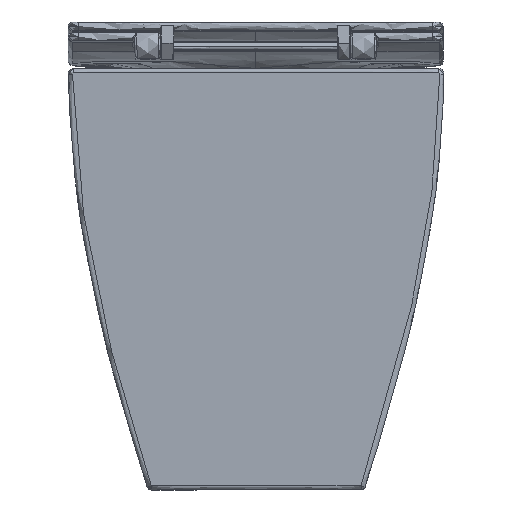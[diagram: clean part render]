
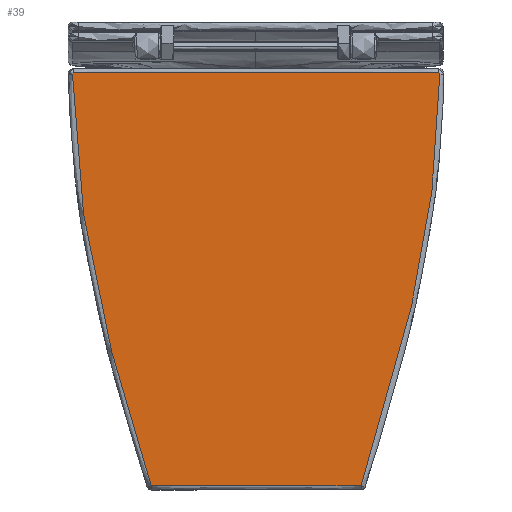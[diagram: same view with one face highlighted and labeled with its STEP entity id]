
A CAD part, front view. The second image highlights one B-rep face of the part: STEP entity #39.
In plain terms, the highlighted planar face has unit normal (0, 1, 0).
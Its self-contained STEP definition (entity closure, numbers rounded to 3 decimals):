
#39=ADVANCED_FACE('',(#627),#7990,.T.);
#627=FACE_OUTER_BOUND('',#1193,.T.);
#1193=EDGE_LOOP('',(#1828,#1829,#1830,#1831,#1832,#1833,#1834,#1835));
#1828=ORIENTED_EDGE('',*,*,#4488,.T.);
#1829=ORIENTED_EDGE('',*,*,#4490,.F.);
#1830=ORIENTED_EDGE('',*,*,#4509,.T.);
#1831=ORIENTED_EDGE('',*,*,#4507,.F.);
#1832=ORIENTED_EDGE('',*,*,#4499,.T.);
#1833=ORIENTED_EDGE('',*,*,#4502,.T.);
#1834=ORIENTED_EDGE('',*,*,#4503,.T.);
#1835=ORIENTED_EDGE('',*,*,#4489,.F.);
#4488=EDGE_CURVE('',#6743,#6744,#8105,.T.);
#4489=EDGE_CURVE('',#6743,#6746,#8106,.T.);
#4490=EDGE_CURVE('',#6748,#6744,#8107,.T.);
#4499=EDGE_CURVE('',#6745,#6758,#5886,.T.);
#4502=EDGE_CURVE('',#6758,#6757,#5889,.T.);
#4503=EDGE_CURVE('',#6757,#6746,#5890,.T.);
#4507=EDGE_CURVE('',#6745,#6747,#5893,.T.);
#4509=EDGE_CURVE('',#6748,#6747,#5895,.T.);
#5886=(
BOUNDED_CURVE()
B_SPLINE_CURVE(3,(#10343,#10344,#10345,#10346),.UNSPECIFIED.,.F.,.F.)
B_SPLINE_CURVE_WITH_KNOTS((4,4),(0.,0.038),
 .UNSPECIFIED.)
CURVE()
GEOMETRIC_REPRESENTATION_ITEM()
RATIONAL_B_SPLINE_CURVE((1.,1.,1.,1.))
REPRESENTATION_ITEM('')
);
#5889=(
BOUNDED_CURVE()
B_SPLINE_CURVE(3,(#10355,#10356,#10357,#10358,#10359,#10360,#10361,#10362),
 .UNSPECIFIED.,.F.,.F.)
B_SPLINE_CURVE_WITH_KNOTS((4,1,3,4),(0.038,0.899,
1.8,1.812),.UNSPECIFIED.)
CURVE()
GEOMETRIC_REPRESENTATION_ITEM()
RATIONAL_B_SPLINE_CURVE((1.,1.,1.,1.,1.,1.,1.,1.))
REPRESENTATION_ITEM('')
);
#5890=(
BOUNDED_CURVE()
B_SPLINE_CURVE(3,(#10363,#10364,#10365,#10366),.UNSPECIFIED.,.F.,.F.)
B_SPLINE_CURVE_WITH_KNOTS((4,4),(1.812,2.146),
 .UNSPECIFIED.)
CURVE()
GEOMETRIC_REPRESENTATION_ITEM()
RATIONAL_B_SPLINE_CURVE((1.,1.,1.,1.))
REPRESENTATION_ITEM('')
);
#5893=(
BOUNDED_CURVE()
B_SPLINE_CURVE(1,(#10383,#10384),.UNSPECIFIED.,.F.,.F.)
B_SPLINE_CURVE_WITH_KNOTS((2,2),(0.,355.508),
 .UNSPECIFIED.)
CURVE()
GEOMETRIC_REPRESENTATION_ITEM()
RATIONAL_B_SPLINE_CURVE((1.,1.))
REPRESENTATION_ITEM('')
);
#5895=(
BOUNDED_CURVE()
B_SPLINE_CURVE(3,(#10387,#10388,#10389,#10390,#10391,#10392,#10393,#10394,
#10395,#10396),.UNSPECIFIED.,.F.,.F.)
B_SPLINE_CURVE_WITH_KNOTS((4,3,3,4),(-0.292,0.898,
1.415,1.789),.UNSPECIFIED.)
CURVE()
GEOMETRIC_REPRESENTATION_ITEM()
RATIONAL_B_SPLINE_CURVE((1.,1.,1.,1.,1.,1.,1.,
1.,1.,1.))
REPRESENTATION_ITEM('')
);
#6743=VERTEX_POINT('',#9885);
#6744=VERTEX_POINT('',#9886);
#6745=VERTEX_POINT('',#9887);
#6746=VERTEX_POINT('',#9888);
#6747=VERTEX_POINT('',#9889);
#6748=VERTEX_POINT('',#9890);
#6757=VERTEX_POINT('',#9899);
#6758=VERTEX_POINT('',#9900);
#7990=PLANE('',#8662);
#8105=B_SPLINE_CURVE_WITH_KNOTS('',1,(#10299,#10300),.UNSPECIFIED.,.F.,
 .F.,(2,2),(2.889,207.07),.UNSPECIFIED.);
#8106=B_SPLINE_CURVE_WITH_KNOTS('',3,(#10301,#10302,#10303,#10304,#10305),
 .UNSPECIFIED.,.F.,.F.,(4,1,4),(2.913,225.243,412.266),
 .UNSPECIFIED.);
#8107=B_SPLINE_CURVE_WITH_KNOTS('',3,(#10306,#10307,#10308,#10309,#10310),
 .UNSPECIFIED.,.F.,.F.,(4,1,4),(-0.602,186.445,408.801),
 .UNSPECIFIED.);
#8662=AXIS2_PLACEMENT_3D('',#9408,#8758,$);
#8758=DIRECTION('',(0.,1.,0.));
#9408=CARTESIAN_POINT('',(-186.993,-20.,-414.098));
#9885=CARTESIAN_POINT('',(102.082,-20.,-406.001));
#9886=CARTESIAN_POINT('',(-102.099,-20.,-405.998));
#9887=CARTESIAN_POINT('',(177.748,-20.001,-4.));
#9888=CARTESIAN_POINT('',(178.605,-20.001,-5.548));
#9889=CARTESIAN_POINT('',(-177.76,-20.001,-4.));
#9890=CARTESIAN_POINT('',(-178.62,-20.001,-5.495));
#9899=CARTESIAN_POINT('',(178.766,-20.001,-5.247));
#9900=CARTESIAN_POINT('',(177.787,-20.001,-3.991));
#10299=CARTESIAN_POINT('',(102.082,-20.,-406.001));
#10300=CARTESIAN_POINT('',(-102.099,-20.,-405.998));
#10301=CARTESIAN_POINT('',(102.082,-20.,-406.001));
#10302=CARTESIAN_POINT('',(125.313,-20.,-335.74));
#10303=CARTESIAN_POINT('',(162.076,-20.,-204.203));
#10304=CARTESIAN_POINT('',(178.535,-20.,-68.413));
#10305=CARTESIAN_POINT('',(178.605,-20.001,-5.548));
#10306=CARTESIAN_POINT('',(-178.62,-20.001,-5.495));
#10307=CARTESIAN_POINT('',(-178.55,-20.,-68.413));
#10308=CARTESIAN_POINT('',(-162.091,-20.,-204.202));
#10309=CARTESIAN_POINT('',(-125.329,-20.,-335.737));
#10310=CARTESIAN_POINT('',(-102.099,-20.,-405.998));
#10343=CARTESIAN_POINT('',(177.748,-20.001,-4.));
#10344=CARTESIAN_POINT('',(177.761,-20.001,-3.997));
#10345=CARTESIAN_POINT('',(177.774,-20.001,-3.994));
#10346=CARTESIAN_POINT('',(177.787,-20.001,-3.991));
#10355=CARTESIAN_POINT('',(177.787,-20.001,-3.991));
#10356=CARTESIAN_POINT('',(178.077,-20.001,-3.999));
#10357=CARTESIAN_POINT('',(178.66,-20.001,-4.307));
#10358=CARTESIAN_POINT('',(178.837,-20.001,-4.939));
#10359=CARTESIAN_POINT('',(178.769,-20.001,-5.236));
#10360=CARTESIAN_POINT('',(178.768,-20.001,-5.239));
#10361=CARTESIAN_POINT('',(178.767,-20.001,-5.243));
#10362=CARTESIAN_POINT('',(178.766,-20.001,-5.247));
#10363=CARTESIAN_POINT('',(178.766,-20.001,-5.247));
#10364=CARTESIAN_POINT('',(178.723,-20.001,-5.352));
#10365=CARTESIAN_POINT('',(178.668,-20.001,-5.452));
#10366=CARTESIAN_POINT('',(178.605,-20.001,-5.548));
#10383=CARTESIAN_POINT('',(177.748,-20.001,-4.));
#10384=CARTESIAN_POINT('',(-177.76,-20.001,-4.));
#10387=CARTESIAN_POINT('',(-178.62,-20.001,-5.495));
#10388=CARTESIAN_POINT('',(-178.807,-20.001,-5.139));
#10389=CARTESIAN_POINT('',(-178.768,-20.001,-4.686));
#10390=CARTESIAN_POINT('',(-178.522,-20.001,-4.374));
#10391=CARTESIAN_POINT('',(-178.415,-20.001,-4.238));
#10392=CARTESIAN_POINT('',(-178.269,-20.001,-4.13));
#10393=CARTESIAN_POINT('',(-178.109,-20.001,-4.067));
#10394=CARTESIAN_POINT('',(-177.993,-20.001,-4.022));
#10395=CARTESIAN_POINT('',(-177.87,-20.001,-4.001));
#10396=CARTESIAN_POINT('',(-177.76,-20.001,-4.));
